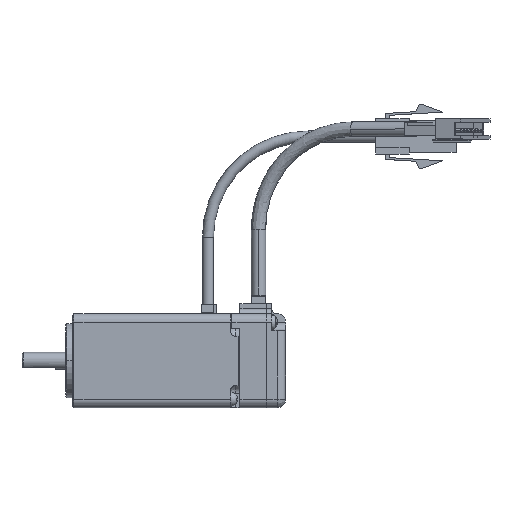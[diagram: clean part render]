
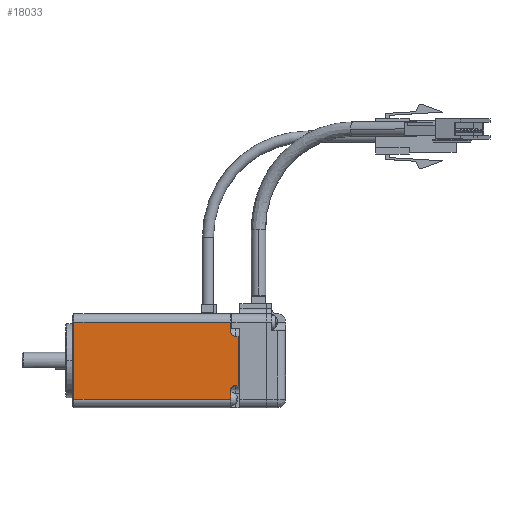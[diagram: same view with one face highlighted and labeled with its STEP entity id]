
A CAD part, top view. The second image highlights one B-rep face of the part: STEP entity #18033.
In plain terms, the highlighted planar face has unit normal (0, 0, 1) as drawn and (-1, 0, 0) by its records, which use the part's own axes.
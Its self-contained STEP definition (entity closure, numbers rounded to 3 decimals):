
#2 = ORIENTED_EDGE ( 'NONE', *, *, #18235, .T. ) ;
#78 = ORIENTED_EDGE ( 'NONE', *, *, #14654, .T. ) ;
#167 = VERTEX_POINT ( 'NONE', #11318 ) ;
#267 = VERTEX_POINT ( 'NONE', #7236 ) ;
#325 = VECTOR ( 'NONE', #8560, 1000. ) ;
#802 = CARTESIAN_POINT ( 'NONE',  ( -4.249, 64.049, 0. ) ) ;
#1234 = LINE ( 'NONE', #8362, #17057 ) ;
#1419 = VERTEX_POINT ( 'NONE', #6874 ) ;
#1477 = DIRECTION ( 'NONE',  ( 1., 0., 0. ) ) ;
#1592 = CARTESIAN_POINT ( 'NONE',  ( -4.249, 78.749, 1.3 ) ) ;
#1627 = LINE ( 'NONE', #4852, #16965 ) ;
#1677 = LINE ( 'NONE', #9347, #12943 ) ;
#2255 = ORIENTED_EDGE ( 'NONE', *, *, #16103, .T. ) ;
#2374 = VECTOR ( 'NONE', #13060, 1000. ) ;
#2484 = DIRECTION ( 'NONE',  ( 0., 1., 0. ) ) ;
#2674 = CARTESIAN_POINT ( 'NONE',  ( -4.249, 82.849, 0.5 ) ) ;
#2831 = DIRECTION ( 'NONE',  ( 1., 0., 0. ) ) ;
#3042 = FACE_OUTER_BOUND ( 'NONE', #17402, .T. ) ;
#3660 = VERTEX_POINT ( 'NONE', #14962 ) ;
#3731 = DIRECTION ( 'NONE',  ( 0., 0., 1. ) ) ;
#4380 = ORIENTED_EDGE ( 'NONE', *, *, #4510, .F. ) ;
#4510 = EDGE_CURVE ( 'NONE', #10712, #11976, #16629, .T. ) ;
#4852 = CARTESIAN_POINT ( 'NONE',  ( -4.249, 82.849, 2.8 ) ) ;
#5112 = VERTEX_POINT ( 'NONE', #12593 ) ;
#5346 = VERTEX_POINT ( 'NONE', #5437 ) ;
#5437 = CARTESIAN_POINT ( 'NONE',  ( -4.249, 59.849, 2.8 ) ) ;
#5855 = EDGE_CURVE ( 'NONE', #167, #5346, #1234, .T. ) ;
#6469 = LINE ( 'NONE', #10117, #9573 ) ;
#6499 = VERTEX_POINT ( 'NONE', #9837 ) ;
#6668 = ORIENTED_EDGE ( 'NONE', *, *, #15301, .T. ) ;
#6698 = DIRECTION ( 'NONE',  ( -1., 0., 0. ) ) ;
#6874 = CARTESIAN_POINT ( 'NONE',  ( -4.249, 82.849, 2.8 ) ) ;
#7236 = CARTESIAN_POINT ( 'NONE',  ( -4.249, 82.849, 49.5 ) ) ;
#7607 = CIRCLE ( 'NONE', #18219, 1.5 ) ;
#8362 = CARTESIAN_POINT ( 'NONE',  ( -4.249, 82.849, 2.8 ) ) ;
#8560 = DIRECTION ( 'NONE',  ( 0., 0., 1. ) ) ;
#9018 = CARTESIAN_POINT ( 'NONE',  ( -4.249, 78.749, 0.5 ) ) ;
#9347 = CARTESIAN_POINT ( 'NONE',  ( -4.249, 82.849, 0.5 ) ) ;
#9573 = VECTOR ( 'NONE', #2484, 1000. ) ;
#9837 = CARTESIAN_POINT ( 'NONE',  ( -4.249, 59.849, 49.5 ) ) ;
#9847 = AXIS2_PLACEMENT_3D ( 'NONE', #11996, #2831, #3731 ) ;
#9884 = DIRECTION ( 'NONE',  ( 0., -1., 0. ) ) ;
#10072 = ORIENTED_EDGE ( 'NONE', *, *, #5855, .T. ) ;
#10117 = CARTESIAN_POINT ( 'NONE',  ( -4.249, 82.849, 49.5 ) ) ;
#10305 = EDGE_CURVE ( 'NONE', #5346, #6499, #14623, .T. ) ;
#10531 = LINE ( 'NONE', #802, #2374 ) ;
#10660 = CARTESIAN_POINT ( 'NONE',  ( -4.249, 62.549, 1.3 ) ) ;
#10712 = VERTEX_POINT ( 'NONE', #9018 ) ;
#10833 = EDGE_CURVE ( 'NONE', #267, #1419, #1677, .T. ) ;
#10885 = DIRECTION ( 'NONE',  ( 0., 0., -1. ) ) ;
#10934 = VECTOR ( 'NONE', #17943, 1000. ) ;
#11249 = PLANE ( 'NONE',  #11813 ) ;
#11318 = CARTESIAN_POINT ( 'NONE',  ( -4.249, 62.549, 2.8 ) ) ;
#11676 = VERTEX_POINT ( 'NONE', #14614 ) ;
#11813 = AXIS2_PLACEMENT_3D ( 'NONE', #14329, #6698, #17404 ) ;
#11883 = LINE ( 'NONE', #2674, #10934 ) ;
#11887 = ORIENTED_EDGE ( 'NONE', *, *, #10305, .T. ) ;
#11976 = VERTEX_POINT ( 'NONE', #1592 ) ;
#11996 = CARTESIAN_POINT ( 'NONE',  ( -4.249, 80.249, 1.3 ) ) ;
#12198 = CIRCLE ( 'NONE', #9847, 1.5 ) ;
#12200 = DIRECTION ( 'NONE',  ( 0., 0., -1. ) ) ;
#12593 = CARTESIAN_POINT ( 'NONE',  ( -4.249, 64.049, 0.5 ) ) ;
#12605 = CARTESIAN_POINT ( 'NONE',  ( -4.249, 59.849, 0.5 ) ) ;
#12943 = VECTOR ( 'NONE', #10885, 1000. ) ;
#13060 = DIRECTION ( 'NONE',  ( 0., 0., -1. ) ) ;
#13097 = ORIENTED_EDGE ( 'NONE', *, *, #14494, .F. ) ;
#13168 = CARTESIAN_POINT ( 'NONE',  ( -4.249, 78.749, 0. ) ) ;
#13649 = VECTOR ( 'NONE', #14150, 1000. ) ;
#14150 = DIRECTION ( 'NONE',  ( 0., 0., 1. ) ) ;
#14329 = CARTESIAN_POINT ( 'NONE',  ( -4.249, 82.849, 0.5 ) ) ;
#14494 = EDGE_CURVE ( 'NONE', #3660, #5112, #10531, .T. ) ;
#14534 = EDGE_CURVE ( 'NONE', #6499, #267, #6469, .T. ) ;
#14614 = CARTESIAN_POINT ( 'NONE',  ( -4.249, 80.249, 2.8 ) ) ;
#14623 = LINE ( 'NONE', #12605, #13649 ) ;
#14654 = EDGE_CURVE ( 'NONE', #11676, #11976, #12198, .T. ) ;
#14962 = CARTESIAN_POINT ( 'NONE',  ( -4.249, 64.049, 1.3 ) ) ;
#15106 = ORIENTED_EDGE ( 'NONE', *, *, #14534, .T. ) ;
#15301 = EDGE_CURVE ( 'NONE', #1419, #11676, #1627, .T. ) ;
#16103 = EDGE_CURVE ( 'NONE', #3660, #167, #7607, .T. ) ;
#16562 = ORIENTED_EDGE ( 'NONE', *, *, #10833, .T. ) ;
#16629 = LINE ( 'NONE', #13168, #325 ) ;
#16965 = VECTOR ( 'NONE', #17094, 1000. ) ;
#17057 = VECTOR ( 'NONE', #9884, 1000. ) ;
#17094 = DIRECTION ( 'NONE',  ( 0., -1., 0. ) ) ;
#17402 = EDGE_LOOP ( 'NONE', ( #11887, #15106, #16562, #6668, #78, #4380, #2, #13097, #2255, #10072 ) ) ;
#17404 = DIRECTION ( 'NONE',  ( 0., 0., 1. ) ) ;
#17943 = DIRECTION ( 'NONE',  ( 0., -1., 0. ) ) ;
#18033 = ADVANCED_FACE ( 'NONE', ( #3042 ), #11249, .T. ) ;
#18219 = AXIS2_PLACEMENT_3D ( 'NONE', #10660, #1477, #12200 ) ;
#18235 = EDGE_CURVE ( 'NONE', #10712, #5112, #11883, .T. ) ;
